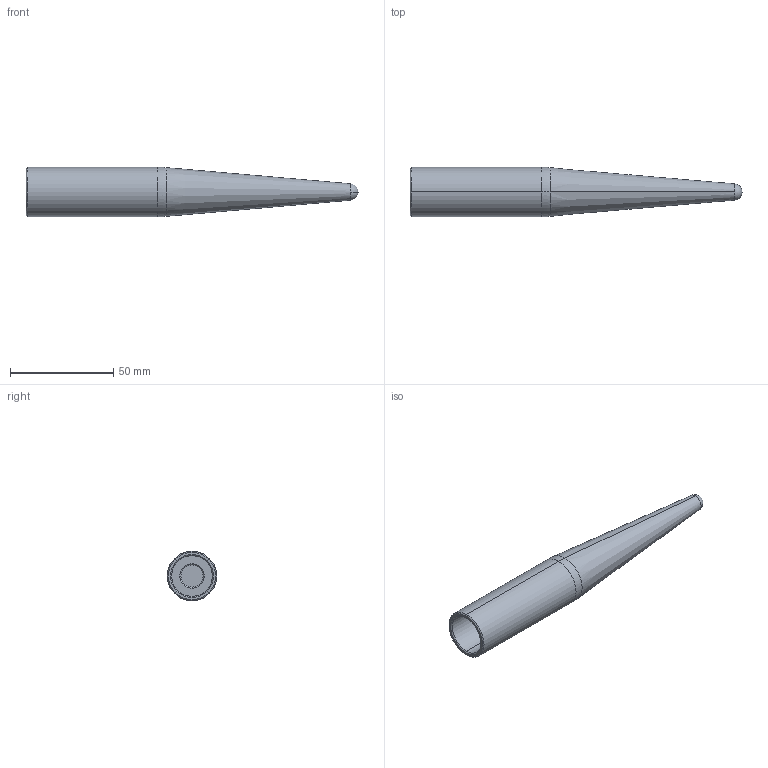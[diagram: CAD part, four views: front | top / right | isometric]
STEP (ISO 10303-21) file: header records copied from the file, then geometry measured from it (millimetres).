
FILE_DESCRIPTION (( 'STEP AP214' ), '1' );
FILE_NAME ('AGZ070.03_V1 O形圈压杆.STEP', '2021-12-15T05:11:42', ( '微软中国' ), ( 'Microsoft' ), 'SwSTEP 2.0', 'SolidWorks 2018', '' );
FILE_SCHEMA (( 'AUTOMOTIVE_DESIGN' ));
Length unit declared in the file: millimetre
Products named in the file (1): AGZ070.03_V1 O形圈压杆
Bounding box: 161.11 x 24 x 24 mm (x, y, z)
Volume: 44496.4 mm3; surface area: 11229.8 mm2
Topology: 1 solids, 1 shells, 21 faces, 42 edges, 25 vertices
Faces by surface type: cone 8, cylinder 6, plane 3, torus 2, sphere 2
Entity records: 586 total; most frequent: DIRECTION 114, CARTESIAN_POINT 89, ORIENTED_EDGE 84, AXIS2_PLACEMENT_3D 50, EDGE_CURVE 42, CIRCLE 28, VERTEX_POINT 25, EDGE_LOOP 23
